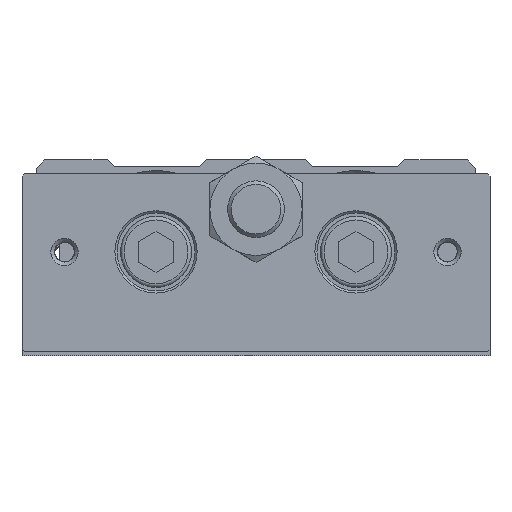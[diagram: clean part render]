
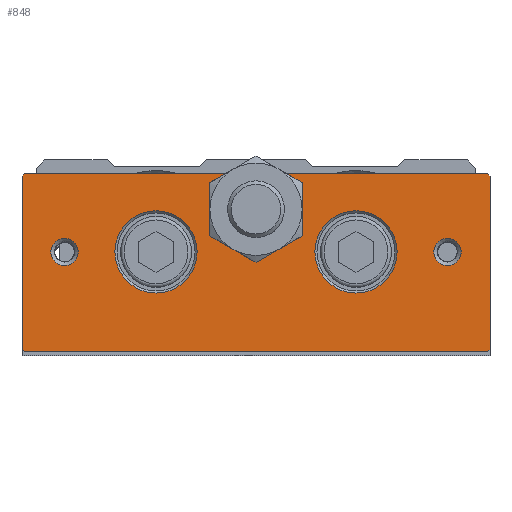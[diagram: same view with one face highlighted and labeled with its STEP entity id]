
A CAD part, top view. The second image highlights one B-rep face of the part: STEP entity #848.
In plain terms, the highlighted planar face has unit normal (0, 0, 1).
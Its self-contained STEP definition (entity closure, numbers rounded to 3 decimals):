
#629=CARTESIAN_POINT('',(-32.7,-14.5,220.0));
#630=VERTEX_POINT('',#629);
#637=CARTESIAN_POINT('',(-33.0,-14.2,220.0));
#638=VERTEX_POINT('',#637);
#639=CARTESIAN_POINT('',(-32.7,-14.5,220.0));
#640=DIRECTION('',(-0.707,0.707,0.0));
#641=VECTOR('',#640,0.424);
#642=LINE('',#639,#641);
#643=EDGE_CURVE('',#630,#638,#642,.T.);
#660=CARTESIAN_POINT('',(-33.0,10.2,220.0));
#661=VERTEX_POINT('',#660);
#662=CARTESIAN_POINT('',(-33.0,10.2,220.0));
#663=DIRECTION('',(0.0,-1.0,0.0));
#664=VECTOR('',#663,24.4);
#665=LINE('',#662,#664);
#666=EDGE_CURVE('',#661,#638,#665,.T.);
#696=CARTESIAN_POINT('',(0.0,-14.5,220.0));
#697=DIRECTION('',(0.0,0.0,1.0));
#698=DIRECTION('',(1.0,0.0,0.0));
#699=AXIS2_PLACEMENT_3D('',#696,#697,#698);
#700=PLANE('',#699);
#701=ORIENTED_EDGE('',*,*,#643,.F.);
#702=CARTESIAN_POINT('',(32.7,-14.5,220.0));
#703=VERTEX_POINT('',#702);
#704=CARTESIAN_POINT('',(-32.7,-14.5,220.0));
#705=DIRECTION('',(1.0,0.0,0.0));
#706=VECTOR('',#705,65.4);
#707=LINE('',#704,#706);
#708=EDGE_CURVE('',#630,#703,#707,.T.);
#709=ORIENTED_EDGE('',*,*,#708,.T.);
#710=CARTESIAN_POINT('',(33.0,-14.2,220.0));
#711=VERTEX_POINT('',#710);
#712=CARTESIAN_POINT('',(33.0,-14.2,220.0));
#713=DIRECTION('',(-0.707,-0.707,0.0));
#714=VECTOR('',#713,0.424);
#715=LINE('',#712,#714);
#716=EDGE_CURVE('',#711,#703,#715,.T.);
#717=ORIENTED_EDGE('',*,*,#716,.F.);
#718=CARTESIAN_POINT('',(33.0,10.2,220.0));
#719=VERTEX_POINT('',#718);
#720=CARTESIAN_POINT('',(33.0,-14.2,220.0));
#721=DIRECTION('',(0.0,1.0,0.0));
#722=VECTOR('',#721,24.4);
#723=LINE('',#720,#722);
#724=EDGE_CURVE('',#711,#719,#723,.T.);
#725=ORIENTED_EDGE('',*,*,#724,.T.);
#726=CARTESIAN_POINT('',(32.7,10.5,220.0));
#727=VERTEX_POINT('',#726);
#728=CARTESIAN_POINT('',(32.7,10.5,220.0));
#729=DIRECTION('',(0.707,-0.707,0.0));
#730=VECTOR('',#729,0.424);
#731=LINE('',#728,#730);
#732=EDGE_CURVE('',#727,#719,#731,.T.);
#733=ORIENTED_EDGE('',*,*,#732,.F.);
#734=CARTESIAN_POINT('',(4.153,10.5,220.0));
#735=VERTEX_POINT('',#734);
#736=CARTESIAN_POINT('',(32.7,10.5,220.0));
#737=DIRECTION('',(-1.0,0.0,0.0));
#738=VECTOR('',#737,28.547);
#739=LINE('',#736,#738);
#740=EDGE_CURVE('',#727,#735,#739,.T.);
#741=ORIENTED_EDGE('',*,*,#740,.T.);
#742=CARTESIAN_POINT('',(6.5,5.5,220.0));
#743=VERTEX_POINT('',#742);
#744=CARTESIAN_POINT('',(0.0,5.5,220.0));
#745=DIRECTION('',(0.0,0.0,1.0));
#746=DIRECTION('',(0.0,1.0,0.0));
#747=AXIS2_PLACEMENT_3D('',#744,#745,#746);
#748=CIRCLE('',#747,6.5);
#749=EDGE_CURVE('',#743,#735,#748,.T.);
#750=ORIENTED_EDGE('',*,*,#749,.F.);
#751=CARTESIAN_POINT('',(3.25,-0.129,220.0));
#752=VERTEX_POINT('',#751);
#753=CARTESIAN_POINT('',(0.0,5.5,220.0));
#754=DIRECTION('',(0.0,0.0,1.0));
#755=DIRECTION('',(0.0,1.0,0.0));
#756=AXIS2_PLACEMENT_3D('',#753,#754,#755);
#757=CIRCLE('',#756,6.5);
#758=EDGE_CURVE('',#752,#743,#757,.T.);
#759=ORIENTED_EDGE('',*,*,#758,.F.);
#760=CARTESIAN_POINT('',(-3.25,-0.129,220.0));
#761=VERTEX_POINT('',#760);
#762=CARTESIAN_POINT('',(0.0,5.5,220.0));
#763=DIRECTION('',(0.0,0.0,1.0));
#764=DIRECTION('',(0.0,1.0,0.0));
#765=AXIS2_PLACEMENT_3D('',#762,#763,#764);
#766=CIRCLE('',#765,6.5);
#767=EDGE_CURVE('',#761,#752,#766,.T.);
#768=ORIENTED_EDGE('',*,*,#767,.F.);
#769=CARTESIAN_POINT('',(-6.5,5.5,220.0));
#770=VERTEX_POINT('',#769);
#771=CARTESIAN_POINT('',(0.0,5.5,220.0));
#772=DIRECTION('',(0.0,0.0,1.0));
#773=DIRECTION('',(0.0,1.0,0.0));
#774=AXIS2_PLACEMENT_3D('',#771,#772,#773);
#775=CIRCLE('',#774,6.5);
#776=EDGE_CURVE('',#770,#761,#775,.T.);
#777=ORIENTED_EDGE('',*,*,#776,.F.);
#778=CARTESIAN_POINT('',(-4.153,10.5,220.0));
#779=VERTEX_POINT('',#778);
#780=CARTESIAN_POINT('',(0.0,5.5,220.0));
#781=DIRECTION('',(0.0,0.0,1.0));
#782=DIRECTION('',(0.0,1.0,0.0));
#783=AXIS2_PLACEMENT_3D('',#780,#781,#782);
#784=CIRCLE('',#783,6.5);
#785=EDGE_CURVE('',#779,#770,#784,.T.);
#786=ORIENTED_EDGE('',*,*,#785,.F.);
#787=CARTESIAN_POINT('',(-32.7,10.5,220.0));
#788=VERTEX_POINT('',#787);
#789=CARTESIAN_POINT('',(-4.153,10.5,220.0));
#790=DIRECTION('',(-1.0,0.0,0.0));
#791=VECTOR('',#790,28.547);
#792=LINE('',#789,#791);
#793=EDGE_CURVE('',#779,#788,#792,.T.);
#794=ORIENTED_EDGE('',*,*,#793,.T.);
#795=CARTESIAN_POINT('',(-33.0,10.2,220.0));
#796=DIRECTION('',(0.707,0.707,0.0));
#797=VECTOR('',#796,0.424);
#798=LINE('',#795,#797);
#799=EDGE_CURVE('',#661,#788,#798,.T.);
#800=ORIENTED_EDGE('',*,*,#799,.F.);
#801=ORIENTED_EDGE('',*,*,#666,.T.);
#802=EDGE_LOOP('',(#701,#709,#717,#725,#733,#741,#750,#759,#768,#777,#786,#794,#800,#801));
#803=FACE_OUTER_BOUND('',#802,.T.);
#804=CARTESIAN_POINT('',(19.9,-0.5,220.0));
#805=VERTEX_POINT('',#804);
#806=CARTESIAN_POINT('',(14.1,-0.5,220.0));
#807=DIRECTION('',(0.0,0.0,1.0));
#808=DIRECTION('',(-1.0,0.0,0.0));
#809=AXIS2_PLACEMENT_3D('',#806,#807,#808);
#810=CIRCLE('',#809,5.8);
#811=EDGE_CURVE('',#805,#805,#810,.T.);
#812=ORIENTED_EDGE('',*,*,#811,.F.);
#813=EDGE_LOOP('',(#812));
#814=FACE_BOUND('',#813,.T.);
#815=CARTESIAN_POINT('',(28.925,-0.5,220.0));
#816=VERTEX_POINT('',#815);
#817=CARTESIAN_POINT('',(27.,-0.5,220.0));
#818=DIRECTION('',(0.0,0.0,1.0));
#819=DIRECTION('',(-1.0,0.0,0.0));
#820=AXIS2_PLACEMENT_3D('',#817,#818,#819);
#821=CIRCLE('',#820,1.925);
#822=EDGE_CURVE('',#816,#816,#821,.T.);
#823=ORIENTED_EDGE('',*,*,#822,.F.);
#824=EDGE_LOOP('',(#823));
#825=FACE_BOUND('',#824,.T.);
#826=CARTESIAN_POINT('',(-25.075,-0.5,220.0));
#827=VERTEX_POINT('',#826);
#828=CARTESIAN_POINT('',(-27.0,-0.5,220.0));
#829=DIRECTION('',(0.0,0.0,1.0));
#830=DIRECTION('',(-1.0,0.0,0.0));
#831=AXIS2_PLACEMENT_3D('',#828,#829,#830);
#832=CIRCLE('',#831,1.925);
#833=EDGE_CURVE('',#827,#827,#832,.T.);
#834=ORIENTED_EDGE('',*,*,#833,.F.);
#835=EDGE_LOOP('',(#834));
#836=FACE_BOUND('',#835,.T.);
#837=CARTESIAN_POINT('',(-8.3,-0.5,220.0));
#838=VERTEX_POINT('',#837);
#839=CARTESIAN_POINT('',(-14.1,-0.5,220.0));
#840=DIRECTION('',(0.0,0.0,1.0));
#841=DIRECTION('',(-1.0,0.0,0.0));
#842=AXIS2_PLACEMENT_3D('',#839,#840,#841);
#843=CIRCLE('',#842,5.8);
#844=EDGE_CURVE('',#838,#838,#843,.T.);
#845=ORIENTED_EDGE('',*,*,#844,.F.);
#846=EDGE_LOOP('',(#845));
#847=FACE_BOUND('',#846,.T.);
#848=ADVANCED_FACE('',(#803,#814,#825,#836,#847),#700,.T.);
